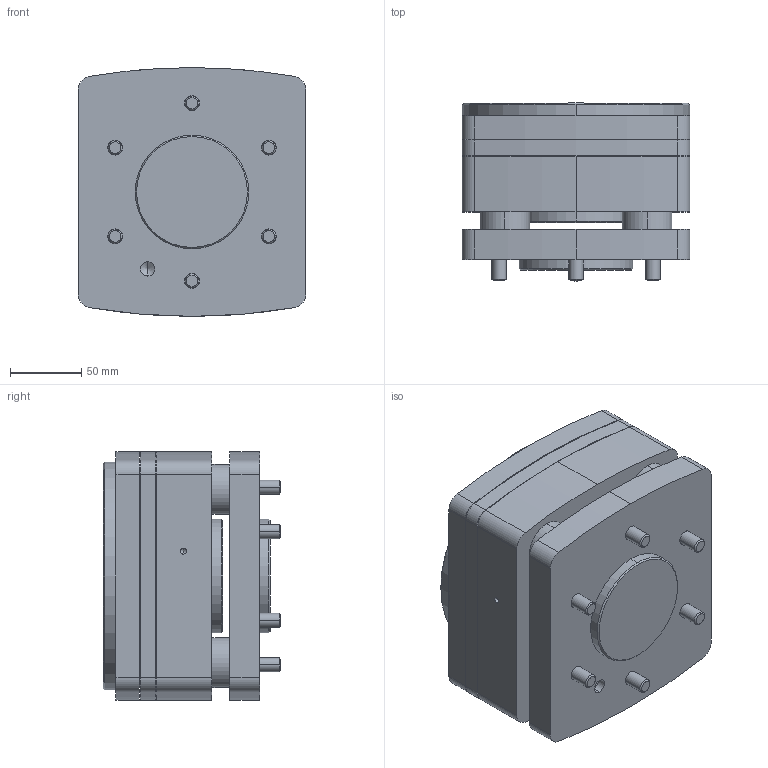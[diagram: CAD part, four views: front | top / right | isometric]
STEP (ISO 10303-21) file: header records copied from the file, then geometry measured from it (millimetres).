
FILE_DESCRIPTION (( 'STEP AP203' ), '1' );
FILE_NAME ('AGE-S-XYZ-125-P.STEP', '2025-01-20T08:56:08', ( 'Windows 蚚誧' ), ( 'Organization' ), 'SwSTEP 2.0', 'SolidWorks 2018', '' );
FILE_SCHEMA (( 'CONFIG_CONTROL_DESIGN' ));
Length unit declared in the file: millimetre
Products named in the file (11): AGE-S-XYZ-125-P.sldasm-Part-9; AGE-S-XYZ-125-P; AGE-S-XYZ-125-P.sldasm-Part-2; AGE-S-XYZ-125-P.sldasm-Part-8; AGE-S-XYZ-125-P.sldasm-Part-5; AGE-S-XYZ-125-P.sldasm-Part-4; AGE-S-XYZ-125-P.sldasm-Part-3; AGE-S-XYZ-125-P.sldasm-Part-10; AGE-S-XYZ-125-P.sldasm-Part-7; AGE-S-XYZ-125-P.sldasm-Part-6; AGE-S-XYZ-125-P.sldasm-Part-1
Assembly tree (10 placements, depth 2):
  AGE-S-XYZ-125-P
    AGE-S-XYZ-125-P.sldasm-Part-1
    AGE-S-XYZ-125-P.sldasm-Part-2
    AGE-S-XYZ-125-P.sldasm-Part-3
    AGE-S-XYZ-125-P.sldasm-Part-4
    AGE-S-XYZ-125-P.sldasm-Part-5
    AGE-S-XYZ-125-P.sldasm-Part-6
    AGE-S-XYZ-125-P.sldasm-Part-7
    AGE-S-XYZ-125-P.sldasm-Part-8
    AGE-S-XYZ-125-P.sldasm-Part-9
    AGE-S-XYZ-125-P.sldasm-Part-10
Bounding box: 160 x 125 x 175 mm (x, y, z)
Volume: 2502169.3 mm3; surface area: 322407.7 mm2
Topology: 10 solids, 10 shells, 452 faces, 1066 edges, 660 vertices
Faces by surface type: cylinder 178, plane 140, cone 98, bspline 36
Entity records: 15839 total; most frequent: CARTESIAN_POINT 4117, DIRECTION 2364, ORIENTED_EDGE 2084, EDGE_CURVE 1042, AXIS2_PLACEMENT_3D 959, VERTEX_POINT 660, EDGE_LOOP 550, CIRCLE 530
